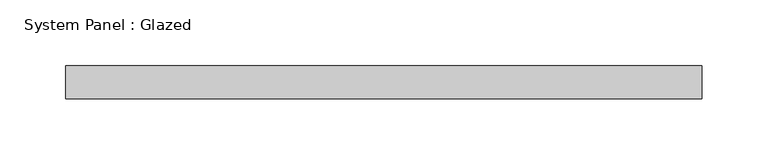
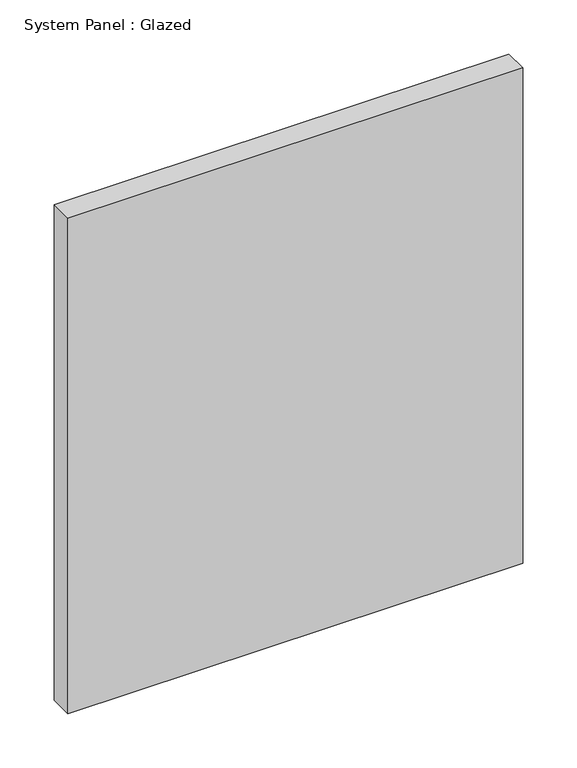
"""IFC4 building model written with IfcOpenShell, lengths in millimetres: plate geometry, System Panel : Glazed."""

from ifc_helpers import new_model, si_unit, origin, origin_with_axes, place, context, project, spatial, polyline, outline, extrude, source, transform, mapped, element, save


def system_panel_glazed_99b9b709(model_context):
    return source(origin(), model_context, "Body", "SweptSolid", [
        extrude(outline(polyline([(242.57, -12.7), (-242.57, -12.7), (-242.57, 12.7), (242.57, 12.7), (242.57, -12.7)])), origin_with_axes(), (0.0, 0.0, 1.0), 558.8),
    ])


if __name__ == "__main__":
    model = new_model("IFC4")
    model_context = context("Model", 3, world=origin())
    ifc_project = project(units=[si_unit("LENGTHUNIT", "METRE", prefix="MILLI")], contexts=[model_context])
    site = spatial("IfcSite", under=ifc_project)
    building = spatial("IfcBuilding", under=site)
    placement = place(None, origin())
    system_panel_glazed_shape = system_panel_glazed_99b9b709(model_context)
    element("IfcPlate", 1, ObjectType="System Panel : Glazed", at=placement, inside=building, context=model_context, shape_type="MappedRepresentation", body=[
        mapped(system_panel_glazed_shape, transform((0.0, 0.0, 0.0), x_axis=(1.0, 0.0, 0.0), y_axis=(0.0, 1.0, 0.0), z_axis=(0.0, 0.0, 1.0))),
    ])
    save(model, "model.ifc")
